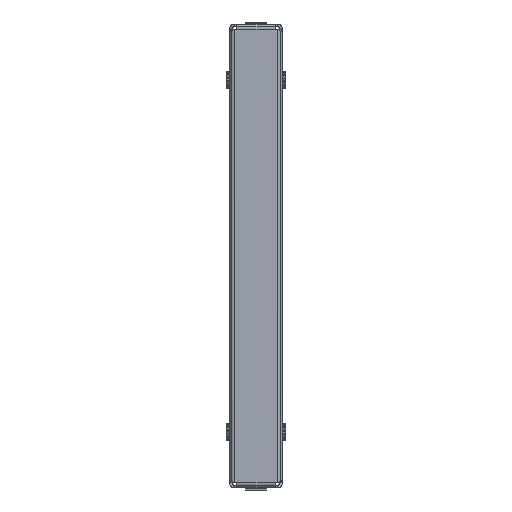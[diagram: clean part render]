
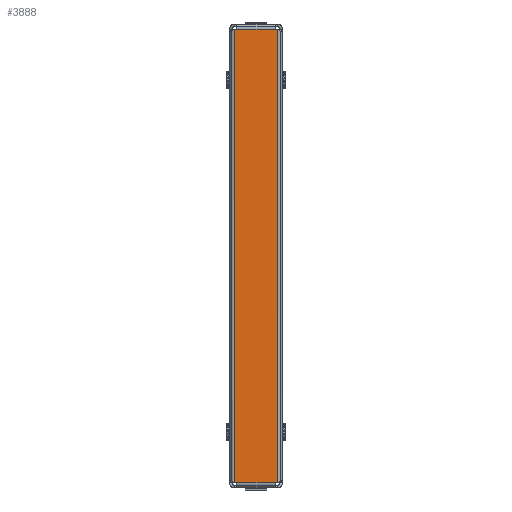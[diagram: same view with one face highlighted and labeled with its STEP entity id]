
A CAD part, left-side view. The second image highlights one B-rep face of the part: STEP entity #3888.
In plain terms, the highlighted planar face has unit normal (-1, 0, 0).
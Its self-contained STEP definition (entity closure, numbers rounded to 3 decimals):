
#428=DIRECTION('',(0.,-1.,0.));
#429=VECTOR('',#428,33.);
#430=CARTESIAN_POINT('',(0.,39.,4.));
#431=LINE('',#430,#429);
#466=DIRECTION('',(0.,1.,0.));
#467=VECTOR('',#466,2.);
#468=CARTESIAN_POINT('',(0.,4.,4.));
#469=LINE('',#468,#467);
#470=DIRECTION('',(0.,1.,0.));
#471=VECTOR('',#470,2.);
#472=CARTESIAN_POINT('',(0.,39.,4.));
#473=LINE('',#472,#471);
#474=DIRECTION('',(0.,-1.,0.));
#475=VECTOR('',#474,2.);
#476=CARTESIAN_POINT('',(0.,41.,391.));
#477=LINE('',#476,#475);
#594=DIRECTION('',(0.,1.,0.));
#595=VECTOR('',#594,33.);
#596=CARTESIAN_POINT('',(0.,6.,391.));
#597=LINE('',#596,#595);
#1200=DIRECTION('',(0.,1.,0.));
#1201=VECTOR('',#1200,2.);
#1202=CARTESIAN_POINT('',(0.,4.,391.));
#1203=LINE('',#1202,#1201);
#1360=DIRECTION('',(0.,0.,1.));
#1361=VECTOR('',#1360,387.);
#1362=CARTESIAN_POINT('',(0.,4.,4.));
#1363=LINE('',#1362,#1361);
#1790=DIRECTION('',(0.,0.,-1.));
#1791=VECTOR('',#1790,387.);
#1792=CARTESIAN_POINT('',(0.,41.,391.));
#1793=LINE('',#1792,#1791);
#2441=CARTESIAN_POINT('',(0.,41.,391.));
#2442=VERTEX_POINT('',#2441);
#2443=CARTESIAN_POINT('',(0.,39.,391.));
#2444=VERTEX_POINT('',#2443);
#2447=CARTESIAN_POINT('',(0.,4.,4.));
#2448=CARTESIAN_POINT('',(0.,6.,4.));
#2449=VERTEX_POINT('',#2447);
#2450=VERTEX_POINT('',#2448);
#2451=CARTESIAN_POINT('',(0.,39.,4.));
#2452=VERTEX_POINT('',#2451);
#2453=CARTESIAN_POINT('',(0.,41.,4.));
#2454=VERTEX_POINT('',#2453);
#2455=CARTESIAN_POINT('',(0.,6.,391.));
#2456=VERTEX_POINT('',#2455);
#2457=CARTESIAN_POINT('',(0.,4.,391.));
#2458=VERTEX_POINT('',#2457);
#3867=CARTESIAN_POINT('',(0.,43.,4.));
#3868=DIRECTION('',(-1.,0.,0.));
#3869=DIRECTION('',(0.,0.,1.));
#3870=AXIS2_PLACEMENT_3D('',#3867,#3868,#3869);
#3871=PLANE('',#3870);
#3872=ORIENTED_EDGE('',*,*,#3858,.T.);
#3873=ORIENTED_EDGE('',*,*,#3785,.F.);
#3875=ORIENTED_EDGE('',*,*,#3874,.T.);
#3877=ORIENTED_EDGE('',*,*,#3876,.F.);
#3879=ORIENTED_EDGE('',*,*,#3878,.T.);
#3881=ORIENTED_EDGE('',*,*,#3880,.F.);
#3883=ORIENTED_EDGE('',*,*,#3882,.F.);
#3885=ORIENTED_EDGE('',*,*,#3884,.F.);
#3886=EDGE_LOOP('',(#3872,#3873,#3875,#3877,#3879,#3881,#3883,#3885));
#3887=FACE_OUTER_BOUND('',#3886,.F.);
#3785=EDGE_CURVE('',#2452,#2450,#431,.T.);
#3858=EDGE_CURVE('',#2449,#2450,#469,.T.);
#3874=EDGE_CURVE('',#2452,#2454,#473,.T.);
#3876=EDGE_CURVE('',#2442,#2454,#1793,.T.);
#3878=EDGE_CURVE('',#2442,#2444,#477,.T.);
#3880=EDGE_CURVE('',#2456,#2444,#597,.T.);
#3882=EDGE_CURVE('',#2458,#2456,#1203,.T.);
#3884=EDGE_CURVE('',#2449,#2458,#1363,.T.);
#3888=ADVANCED_FACE('',(#3887),#3871,.T.);
